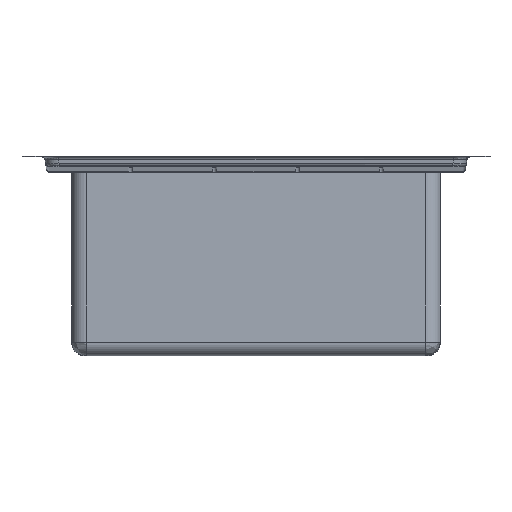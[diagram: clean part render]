
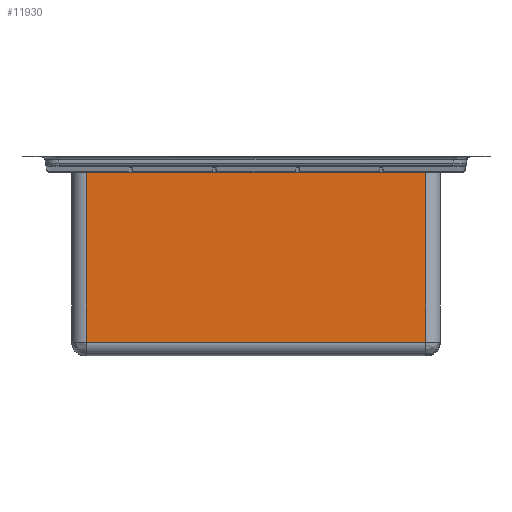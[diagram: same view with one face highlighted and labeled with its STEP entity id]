
A CAD part, left-side view. The second image highlights one B-rep face of the part: STEP entity #11930.
In plain terms, the highlighted planar face has unit normal (-1, 0, 0).
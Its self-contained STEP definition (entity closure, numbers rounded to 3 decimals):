
#11785=CARTESIAN_POINT('Vertex',(-66.,-185.,0.)) ;
#11788=CARTESIAN_POINT('Line Origine',(-66.,-185.,-100.)) ;
#11792=CARTESIAN_POINT('Vertex',(-66.,-185.,-185.)) ;
#11900=CARTESIAN_POINT('Axis2P3D Location',(-66.,-185.,0.)) ;
#11905=CARTESIAN_POINT('Line Origine',(-66.,0.,0.)) ;
#11909=CARTESIAN_POINT('Vertex',(-66.,185.,0.)) ;
#11912=CARTESIAN_POINT('Line Origine',(-66.,185.,-92.5)) ;
#11916=CARTESIAN_POINT('Vertex',(-66.,185.,-185.)) ;
#11919=CARTESIAN_POINT('Line Origine',(-66.,0.,-185.)) ;
#11789=DIRECTION('Vector Direction',(0.,0.,1.)) ;
#11901=DIRECTION('Axis2P3D Direction',(-1.,0.,0.)) ;
#11902=DIRECTION('Axis2P3D XDirection',(0.,1.,0.)) ;
#11906=DIRECTION('Vector Direction',(0.,1.,0.)) ;
#11913=DIRECTION('Vector Direction',(0.,0.,-1.)) ;
#11920=DIRECTION('Vector Direction',(0.,1.,0.)) ;
#11903=AXIS2_PLACEMENT_3D('Plane Axis2P3D',#11900,#11901,#11902) ;
#11925=ORIENTED_EDGE('',*,*,#11794,.F.) ;
#11926=ORIENTED_EDGE('',*,*,#11911,.F.) ;
#11927=ORIENTED_EDGE('',*,*,#11918,.T.) ;
#11928=ORIENTED_EDGE('',*,*,#11923,.T.) ;
#11790=VECTOR('Line Direction',#11789,1.) ;
#11907=VECTOR('Line Direction',#11906,1.) ;
#11914=VECTOR('Line Direction',#11913,1.) ;
#11921=VECTOR('Line Direction',#11920,1.) ;
#11930=ADVANCED_FACE('Vasca',(#11929),#11904,.T.) ;
#11794=EDGE_CURVE('',#11786,#11793,#11791,.F.) ;
#11911=EDGE_CURVE('',#11910,#11786,#11908,.F.) ;
#11918=EDGE_CURVE('',#11910,#11917,#11915,.T.) ;
#11923=EDGE_CURVE('',#11917,#11793,#11922,.F.) ;
#11924=EDGE_LOOP('',(#11925,#11926,#11927,#11928)) ;
#11929=FACE_OUTER_BOUND('',#11924,.T.) ;
#11791=LINE('Line',#11788,#11790) ;
#11908=LINE('Line',#11905,#11907) ;
#11915=LINE('Line',#11912,#11914) ;
#11922=LINE('Line',#11919,#11921) ;
#11904=PLANE('',#11903) ;
#11786=VERTEX_POINT('',#11785) ;
#11793=VERTEX_POINT('',#11792) ;
#11910=VERTEX_POINT('',#11909) ;
#11917=VERTEX_POINT('',#11916) ;
